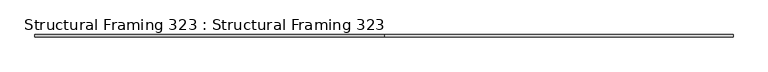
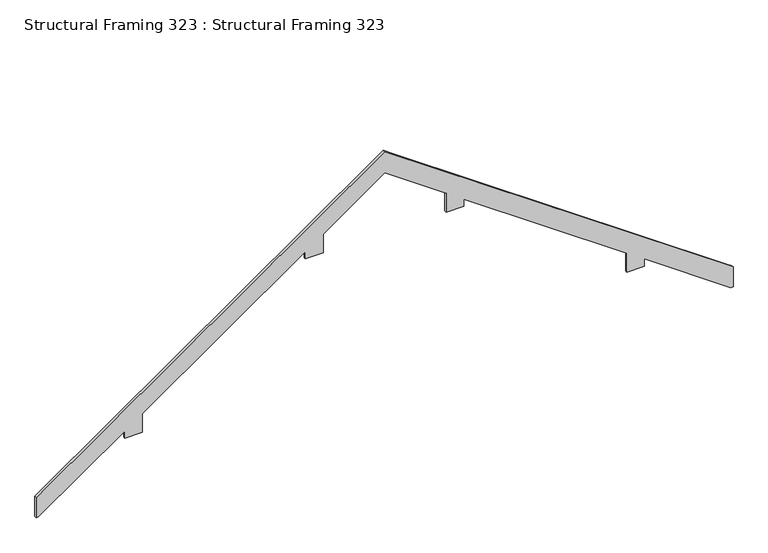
"""IFC4 building model written with IfcOpenShell, lengths in millimetres: beam geometry, Structural Framing 323 : Structural Framing 323."""

from ifc_helpers import new_model, si_unit, origin, place, context, project, spatial, faceted_brep, source, transform, mapped, element, save


def structural_framing_323_structural_framing_323_983c3ce1(model_context):
    return source(origin(), model_context, "Body", "Brep", [
        faceted_brep([(-2719.0115151, -6727.9048058, -144.1919814), (-1739.0115151, -6727.9048058, 542.0114061), (-1739.0115151, -6727.9048058, 456.0155568), (-1539.0115151, -6727.9048058, 456.0155568), (-1539.0115151, -6727.9048058, 682.0529137), (308.8685956, -6727.9048058, 1975.9524969), (308.8685956, -6727.9048058, 1889.9566477), (508.8685956, -6727.9048058, 1889.9566477), (508.8685956, -6727.9048058, 2115.9940046), (1206.7789073, -6727.9048058, 2604.6760658), (1904.6892189, -6727.9048058, 2115.9940046), (1904.6892189, -6727.9048058, 1889.9566477), (2104.6892189, -6727.9048058, 1889.9566477), (2104.6892189, -6727.9048058, 1975.9524969), (3952.5693297, -6727.9048058, 682.0529137), (3952.5693297, -6727.9048058, 456.0155568), (4152.5693297, -6727.9048058, 456.0155568), (4152.5693297, -6727.9048058, 542.0114061), (5132.5693297, -6727.9048058, -144.1919814), (5157.5693297, -6727.9048058, -144.1919814), (5157.5693297, -6727.9048058, 94.6612147), (1206.7789073, -6727.9048058, 2861.0344503), (-2744.0115151, -6727.9048058, 94.6612147), (-2744.0115151, -6727.9048058, -144.1919814), (-2719.0115151, -6702.9048058, -144.1919814), (-2744.0115151, -6702.9048058, -144.1919814), (-2744.0115151, -6702.9048058, 94.6612147), (-2669.7499953, -6702.9048058, 146.6596907), (1096.5298124, -6702.9048058, 2783.837203), (1206.7789073, -6702.9048058, 2861.0344503), (1317.0280021, -6702.9048058, 2783.837203), (5083.3078098, -6702.9048058, 146.6596907), (5157.5693297, -6702.9048058, 94.6612147), (5157.5693297, -6702.9048058, -144.1919814), (5132.5693297, -6702.9048058, -144.1919814), (4152.5693297, -6702.9048058, 542.0114061), (4152.5693297, -6702.9048058, 456.0155568), (3952.5693297, -6702.9048058, 456.0155568), (3952.5693297, -6702.9048058, 682.0529137), (2104.6892189, -6702.9048058, 1975.9524969), (2104.6892189, -6702.9048058, 1889.9566477), (1904.6892189, -6702.9048058, 1889.9566477), (1904.6892189, -6702.9048058, 2115.9940046), (1206.7789073, -6702.9048058, 2604.6760658), (508.8685956, -6702.9048058, 2115.9940046), (508.8685956, -6702.9048058, 1889.9566477), (308.8685956, -6702.9048058, 1889.9566477), (308.8685956, -6702.9048058, 1975.9524969), (-1539.0115151, -6702.9048058, 682.0529137), (-1539.0115151, -6702.9048058, 456.0155568), (-1739.0115151, -6702.9048058, 456.0155568), (-1739.0115151, -6702.9048058, 542.0114061)], [[[0, 1, 2, 3, 4, 5, 6, 7, 8, 9, 10, 11, 12, 13, 14, 15, 16, 17, 18, 19, 20, 21, 22, 23]], [[24, 25, 26, 27, 28, 29, 30, 31, 32, 33, 34, 35, 36, 37, 38, 39, 40, 41, 42, 43, 44, 45, 46, 47, 48, 49, 50, 51]], [[1, 0, 24, 51]], [[2, 1, 51, 50]], [[3, 2, 50, 49]], [[4, 3, 49, 48]], [[5, 4, 48, 47]], [[6, 5, 47, 46]], [[7, 6, 46, 45]], [[8, 7, 45, 44]], [[9, 8, 44, 43]], [[10, 9, 43, 42]], [[11, 10, 42, 41]], [[12, 11, 41, 40]], [[13, 12, 40, 39]], [[14, 13, 39, 38]], [[15, 14, 38, 37]], [[16, 15, 37, 36]], [[17, 16, 36, 35]], [[18, 17, 35, 34]], [[19, 18, 34, 33]], [[20, 19, 33, 32]], [[21, 20, 32, 31, 30, 29]], [[22, 21, 29, 28, 27, 26]], [[23, 22, 26, 25]], [[0, 23, 25, 24]]]),
    ])


if __name__ == "__main__":
    model = new_model("IFC4")
    model_context = context("Model", 3, world=origin())
    ifc_project = project(units=[si_unit("LENGTHUNIT", "METRE", prefix="MILLI")], contexts=[model_context])
    site = spatial("IfcSite", under=ifc_project)
    building = spatial("IfcBuilding", under=site)
    placement = place(None, origin())
    structural_framing_323_structural_framing_323_shape = structural_framing_323_structural_framing_323_983c3ce1(model_context)
    element("IfcBeam", 1, ObjectType="Structural Framing 323 : Structural Framing 323", at=placement, inside=building, context=model_context, shape_type="MappedRepresentation", body=[
        mapped(structural_framing_323_structural_framing_323_shape, transform((0.0, 0.0, 0.0), x_axis=(1.0, 0.0, 0.0), y_axis=(0.0, 1.0, 0.0), z_axis=(0.0, 0.0, 1.0))),
    ])
    save(model, "model.ifc")
